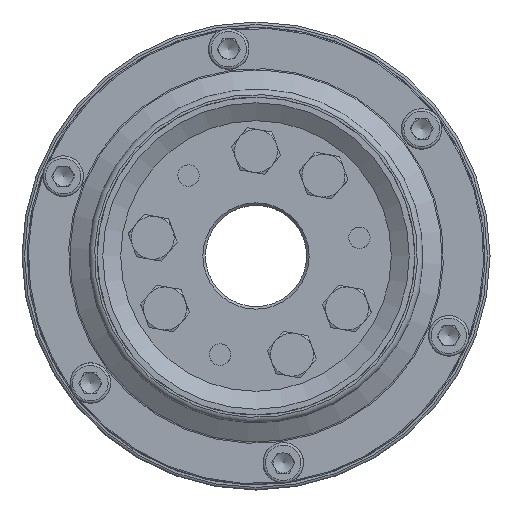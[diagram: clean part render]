
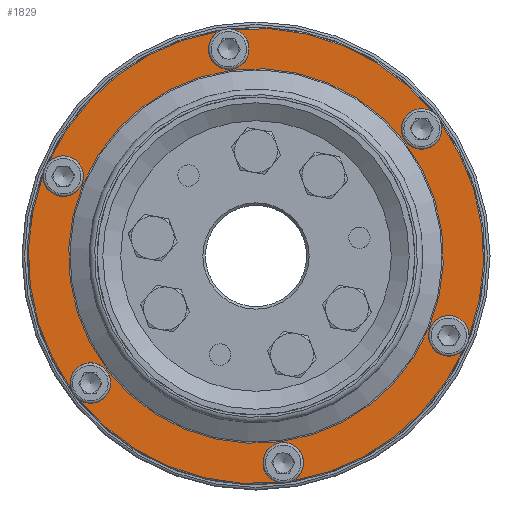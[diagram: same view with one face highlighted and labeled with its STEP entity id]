
A CAD part, left-side view. The second image highlights one B-rep face of the part: STEP entity #1829.
In plain terms, the highlighted planar face has unit normal (-1, 0, 0).
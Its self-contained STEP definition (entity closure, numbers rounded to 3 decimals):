
#1829 = ADVANCED_FACE( '', ( #4019, #4020 ), #4021, .T. );
#4019 = FACE_OUTER_BOUND( '', #6541, .T. );
#4020 = FACE_BOUND( '', #6542, .T. );
#4021 = PLANE( '', #6543 );
#6541 = EDGE_LOOP( '', ( #11678, #11679, #11680, #11681, #11682, #11683, #11684, #11685, #11686, #11687, #11688, #11689 ) );
#6542 = EDGE_LOOP( '', ( #11690 ) );
#6543 = AXIS2_PLACEMENT_3D( '', #11691, #11692, #11693 );
#11678 = ORIENTED_EDGE( '', *, *, #12887, .F. );
#11679 = ORIENTED_EDGE( '', *, *, #12769, .T. );
#11680 = ORIENTED_EDGE( '', *, *, #12492, .F. );
#11681 = ORIENTED_EDGE( '', *, *, #12767, .T. );
#11682 = ORIENTED_EDGE( '', *, *, #13085, .F. );
#11683 = ORIENTED_EDGE( '', *, *, #12765, .T. );
#11684 = ORIENTED_EDGE( '', *, *, #13592, .F. );
#11685 = ORIENTED_EDGE( '', *, *, #12775, .T. );
#11686 = ORIENTED_EDGE( '', *, *, #13733, .F. );
#11687 = ORIENTED_EDGE( '', *, *, #12773, .T. );
#11688 = ORIENTED_EDGE( '', *, *, #14257, .F. );
#11689 = ORIENTED_EDGE( '', *, *, #12771, .T. );
#11690 = ORIENTED_EDGE( '', *, *, #13870, .T. );
#11691 = CARTESIAN_POINT( '', ( 4.15, 11.747, 89.23 ) );
#11692 = DIRECTION( '', ( -1., 0., 0. ) );
#11693 = DIRECTION( '', ( 0., 0., 1. ) );
#12492 = EDGE_CURVE( '', #14734, #14733, #14736, .T. );
#12765 = EDGE_CURVE( '', #15199, #14513, #15200, .T. );
#12767 = EDGE_CURVE( '', #14734, #15201, #15203, .T. );
#12769 = EDGE_CURVE( '', #15205, #14733, #15206, .T. );
#12771 = EDGE_CURVE( '', #15209, #15207, #15210, .T. );
#12773 = EDGE_CURVE( '', #15213, #15211, #15214, .T. );
#12775 = EDGE_CURVE( '', #14514, #15215, #15217, .T. );
#12887 = EDGE_CURVE( '', #15205, #15207, #15408, .T. );
#13085 = EDGE_CURVE( '', #15199, #15201, #15719, .T. );
#13592 = EDGE_CURVE( '', #14514, #14513, #16460, .T. );
#13733 = EDGE_CURVE( '', #15213, #15215, #16654, .T. );
#13870 = EDGE_CURVE( '', #16832, #16832, #16833, .T. );
#14257 = EDGE_CURVE( '', #15209, #15211, #17299, .T. );
#14513 = VERTEX_POINT( '', #18054 );
#14514 = VERTEX_POINT( '', #18055 );
#14733 = VERTEX_POINT( '', #18507 );
#14734 = VERTEX_POINT( '', #18508 );
#14736 = CIRCLE( '', #18510, 8. );
#15199 = VERTEX_POINT( '', #19452 );
#15200 = CIRCLE( '', #19453, 90. );
#15201 = VERTEX_POINT( '', #19454 );
#15203 = CIRCLE( '', #19456, 90. );
#15205 = VERTEX_POINT( '', #19458 );
#15206 = CIRCLE( '', #19459, 90. );
#15207 = VERTEX_POINT( '', #19460 );
#15209 = VERTEX_POINT( '', #19462 );
#15210 = CIRCLE( '', #19463, 90. );
#15211 = VERTEX_POINT( '', #19464 );
#15213 = VERTEX_POINT( '', #19466 );
#15214 = CIRCLE( '', #19467, 90. );
#15215 = VERTEX_POINT( '', #19468 );
#15217 = CIRCLE( '', #19470, 90. );
#15408 = CIRCLE( '', #19926, 8. );
#15719 = CIRCLE( '', #20981, 8. );
#16460 = CIRCLE( '', #23633, 8. );
#16654 = CIRCLE( '', #24285, 8. );
#16832 = VERTEX_POINT( '', #24992 );
#16833 = CIRCLE( '', #24993, 74.073 );
#17299 = CIRCLE( '', #26478, 8. );
#18054 = CARTESIAN_POINT( '', ( 4.15, 81.993, 37.11 ) );
#18055 = CARTESIAN_POINT( '', ( 4.15, 84.218, 31.738 ) );
#18507 = CARTESIAN_POINT( '', ( 4.15, -73.134, 52.453 ) );
#18508 = CARTESIAN_POINT( '', ( 4.15, -69.595, 57.066 ) );
#18510 = AXIS2_PLACEMENT_3D( '', #26911, #26912, #26913 );
#19452 = CARTESIAN_POINT( '', ( 4.15, 14.624, 88.804 ) );
#19453 = AXIS2_PLACEMENT_3D( '', #27276, #27277, #27278 );
#19454 = CARTESIAN_POINT( '', ( 4.15, 8.859, 89.563 ) );
#19456 = AXIS2_PLACEMENT_3D( '', #27282, #27283, #27284 );
#19458 = CARTESIAN_POINT( '', ( 4.15, -84.218, -31.738 ) );
#19459 = AXIS2_PLACEMENT_3D( '', #27288, #27289, #27290 );
#19460 = CARTESIAN_POINT( '', ( 4.15, -81.993, -37.11 ) );
#19462 = CARTESIAN_POINT( '', ( 4.15, -14.624, -88.804 ) );
#19463 = AXIS2_PLACEMENT_3D( '', #27294, #27295, #27296 );
#19464 = CARTESIAN_POINT( '', ( 4.15, -8.859, -89.563 ) );
#19466 = CARTESIAN_POINT( '', ( 4.15, 69.595, -57.066 ) );
#19467 = AXIS2_PLACEMENT_3D( '', #27300, #27301, #27302 );
#19468 = CARTESIAN_POINT( '', ( 4.15, 73.134, -52.453 ) );
#19470 = AXIS2_PLACEMENT_3D( '', #27306, #27307, #27308 );
#19926 = AXIS2_PLACEMENT_3D( '', #27466, #27467, #27468 );
#20981 = AXIS2_PLACEMENT_3D( '', #27692, #27693, #27694 );
#23633 = AXIS2_PLACEMENT_3D( '', #28270, #28271, #28272 );
#24285 = AXIS2_PLACEMENT_3D( '', #28400, #28401, #28402 );
#24992 = CARTESIAN_POINT( '', ( 4.15, 9.669, 73.44 ) );
#24993 = AXIS2_PLACEMENT_3D( '', #28533, #28534, #28535 );
#26478 = AXIS2_PLACEMENT_3D( '', #28845, #28846, #28847 );
#26911 = CARTESIAN_POINT( '', ( 4.15, -65.452, 50.223 ) );
#26912 = DIRECTION( '', ( -1., 0., 0. ) );
#26913 = DIRECTION( '', ( 0., 0.866, -0.5 ) );
#27276 = CARTESIAN_POINT( '', ( 4.15, 0., 0. ) );
#27277 = DIRECTION( '', ( -1., 0., 0. ) );
#27278 = DIRECTION( '', ( 0., 0.131, 0.991 ) );
#27282 = CARTESIAN_POINT( '', ( 4.15, 0., 0. ) );
#27283 = DIRECTION( '', ( -1., 0., 0. ) );
#27284 = DIRECTION( '', ( 0., 0.131, 0.991 ) );
#27288 = CARTESIAN_POINT( '', ( 4.15, 0., 0. ) );
#27289 = DIRECTION( '', ( -1., 0., 0. ) );
#27290 = DIRECTION( '', ( 0., 0.131, 0.991 ) );
#27294 = CARTESIAN_POINT( '', ( 4.15, 0., 0. ) );
#27295 = DIRECTION( '', ( -1., 0., 0. ) );
#27296 = DIRECTION( '', ( 0., 0.131, 0.991 ) );
#27300 = CARTESIAN_POINT( '', ( 4.15, 0., 0. ) );
#27301 = DIRECTION( '', ( -1., 0., 0. ) );
#27302 = DIRECTION( '', ( 0., 0.131, 0.991 ) );
#27306 = CARTESIAN_POINT( '', ( 4.15, 0., 0. ) );
#27307 = DIRECTION( '', ( -1., 0., 0. ) );
#27308 = DIRECTION( '', ( 0., 0.131, 0.991 ) );
#27466 = CARTESIAN_POINT( '', ( 4.15, -76.22, -31.571 ) );
#27467 = DIRECTION( '', ( -1., 0., 0. ) );
#27468 = DIRECTION( '', ( 0., 0.866, 0.5 ) );
#27692 = CARTESIAN_POINT( '', ( 4.15, 10.768, 81.794 ) );
#27693 = DIRECTION( '', ( -1., 0., 0. ) );
#27694 = DIRECTION( '', ( 0., 0., -1. ) );
#28270 = CARTESIAN_POINT( '', ( 4.15, 76.22, 31.571 ) );
#28271 = DIRECTION( '', ( -1., 0., 0. ) );
#28272 = DIRECTION( '', ( 0., -0.866, -0.5 ) );
#28400 = CARTESIAN_POINT( '', ( 4.15, 65.452, -50.223 ) );
#28401 = DIRECTION( '', ( -1., 0., 0. ) );
#28402 = DIRECTION( '', ( 0., -0.866, 0.5 ) );
#28533 = CARTESIAN_POINT( '', ( 4.15, 0., 0. ) );
#28534 = DIRECTION( '', ( 1., 0., 0. ) );
#28535 = DIRECTION( '', ( 0., 0.131, 0.991 ) );
#28845 = CARTESIAN_POINT( '', ( 4.15, -10.768, -81.794 ) );
#28846 = DIRECTION( '', ( -1., 0., 0. ) );
#28847 = DIRECTION( '', ( 0., 0., 1. ) );
